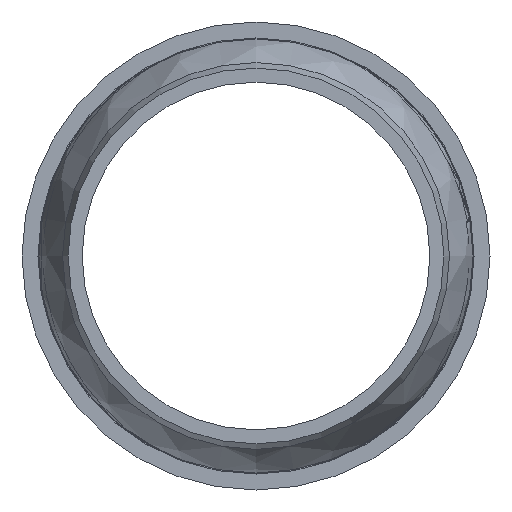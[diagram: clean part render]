
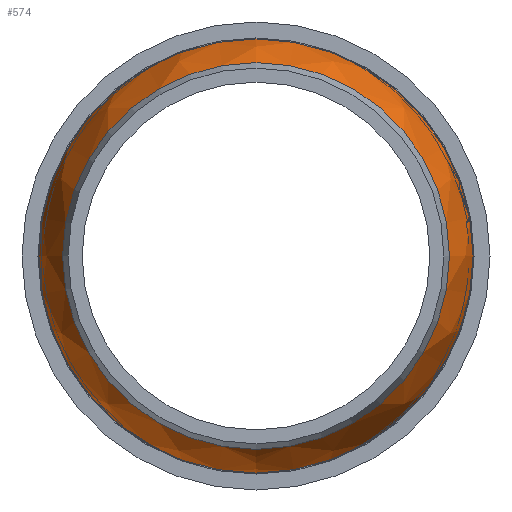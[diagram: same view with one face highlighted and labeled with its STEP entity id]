
A CAD part, left-side view. The second image highlights one B-rep face of the part: STEP entity #574.
In plain terms, the highlighted free-form (B-spline) face has degree [2, 2] with [3, 9] control points.
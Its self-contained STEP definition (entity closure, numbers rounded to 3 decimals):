
#12=(
BOUNDED_CURVE()
B_SPLINE_CURVE(2,(#2121,#2122,#2123),.UNSPECIFIED.,.F.,.F.)
B_SPLINE_CURVE_WITH_KNOTS((3,3),(0.097,0.624),
 .UNSPECIFIED.)
CURVE()
GEOMETRIC_REPRESENTATION_ITEM()
RATIONAL_B_SPLINE_CURVE((1.,0.965,1.))
REPRESENTATION_ITEM('')
);
#14=(
BOUNDED_SURFACE()
B_SPLINE_SURFACE(2,2,((#2094,#2095,#2096,#2097,#2098,#2099,#2100,#2101,
#2102),(#2103,#2104,#2105,#2106,#2107,#2108,#2109,#2110,#2111),(#2112,#2113,
#2114,#2115,#2116,#2117,#2118,#2119,#2120)),.UNSPECIFIED.,.F.,.T.,.F.)
B_SPLINE_SURFACE_WITH_KNOTS((3,3),(3,2,2,2,3),(-0.624,-0.097),
(-3.142,-1.571,0.,1.571,3.142),
 .UNSPECIFIED.)
GEOMETRIC_REPRESENTATION_ITEM()
RATIONAL_B_SPLINE_SURFACE(((1.,0.707,1.,0.707,1.,
0.707,1.,0.707,1.),(0.965,0.683,
0.965,0.683,0.965,0.683,0.965,
0.683,0.965),(1.,0.707,1.,0.707,
1.,0.707,1.,0.707,1.)))
REPRESENTATION_ITEM('')
SURFACE()
);
#147=FACE_OUTER_BOUND('',#206,.T.);
#206=EDGE_LOOP('',(#480,#481,#482,#483,#484,#485,#486));
#234=CIRCLE('',#616,42.2);
#235=CIRCLE('',#617,42.2);
#236=CIRCLE('',#618,42.2);
#242=CIRCLE('',#637,37.6);
#243=CIRCLE('',#638,37.6);
#278=VERTEX_POINT('',#1437);
#287=VERTEX_POINT('',#1829);
#288=VERTEX_POINT('',#1830);
#299=VERTEX_POINT('',#2090);
#300=VERTEX_POINT('',#2091);
#349=EDGE_CURVE('',#287,#288,#234,.T.);
#350=EDGE_CURVE('',#288,#278,#235,.T.);
#351=EDGE_CURVE('',#278,#287,#236,.T.);
#363=EDGE_CURVE('',#299,#300,#242,.T.);
#364=EDGE_CURVE('',#300,#299,#243,.T.);
#365=EDGE_CURVE('',#288,#300,#12,.T.);
#480=ORIENTED_EDGE('',*,*,#349,.F.);
#481=ORIENTED_EDGE('',*,*,#351,.F.);
#482=ORIENTED_EDGE('',*,*,#350,.F.);
#483=ORIENTED_EDGE('',*,*,#365,.T.);
#484=ORIENTED_EDGE('',*,*,#364,.T.);
#485=ORIENTED_EDGE('',*,*,#363,.T.);
#486=ORIENTED_EDGE('',*,*,#365,.F.);
#574=ADVANCED_FACE('',(#147),#14,.F.);
#616=AXIS2_PLACEMENT_3D('',#1831,#712,#713);
#617=AXIS2_PLACEMENT_3D('',#1832,#714,#715);
#618=AXIS2_PLACEMENT_3D('',#1833,#716,#717);
#637=AXIS2_PLACEMENT_3D('',#2092,#754,#755);
#638=AXIS2_PLACEMENT_3D('',#2093,#756,#757);
#712=DIRECTION('center_axis',(1.,0.,0.));
#713=DIRECTION('ref_axis',(0.,0.,
1.));
#714=DIRECTION('center_axis',(1.,0.,0.));
#715=DIRECTION('ref_axis',(0.,0.,
1.));
#716=DIRECTION('center_axis',(1.,0.,0.));
#717=DIRECTION('ref_axis',(0.,0.,
1.));
#754=DIRECTION('center_axis',(1.,0.,0.));
#755=DIRECTION('ref_axis',(0.,0.,
1.));
#756=DIRECTION('center_axis',(1.,0.,0.));
#757=DIRECTION('ref_axis',(0.,0.,
1.));
#1437=CARTESIAN_POINT('',(508.8,42.2,0.));
#1829=CARTESIAN_POINT('',(508.8,-42.2,0.));
#1830=CARTESIAN_POINT('',(508.8,0.,-42.2));
#1831=CARTESIAN_POINT('Origin',(508.8,0.,
0.));
#1832=CARTESIAN_POINT('Origin',(508.8,0.,
0.));
#1833=CARTESIAN_POINT('Origin',(508.8,0.,
0.));
#2090=CARTESIAN_POINT('',(496.6,-37.6,0.));
#2091=CARTESIAN_POINT('',(496.6,0.,-37.6));
#2092=CARTESIAN_POINT('Origin',(496.6,0.,
0.));
#2093=CARTESIAN_POINT('Origin',(496.6,0.,
0.));
#2094=CARTESIAN_POINT('Ctrl Pts',(496.6,0.,
-37.6));
#2095=CARTESIAN_POINT('Ctrl Pts',(496.6,37.6,-37.6));
#2096=CARTESIAN_POINT('Ctrl Pts',(496.6,37.6,0.));
#2097=CARTESIAN_POINT('Ctrl Pts',(496.6,37.6,37.6));
#2098=CARTESIAN_POINT('Ctrl Pts',(496.6,0.,
37.6));
#2099=CARTESIAN_POINT('Ctrl Pts',(496.6,-37.6,37.6));
#2100=CARTESIAN_POINT('Ctrl Pts',(496.6,-37.6,0.));
#2101=CARTESIAN_POINT('Ctrl Pts',(496.6,-37.6,-37.6));
#2102=CARTESIAN_POINT('Ctrl Pts',(496.6,0.,
-37.6));
#2103=CARTESIAN_POINT('Ctrl Pts',(502.079,0.,
-41.548));
#2104=CARTESIAN_POINT('Ctrl Pts',(502.079,41.548,-41.548));
#2105=CARTESIAN_POINT('Ctrl Pts',(502.079,41.548,0.));
#2106=CARTESIAN_POINT('Ctrl Pts',(502.079,41.548,41.548));
#2107=CARTESIAN_POINT('Ctrl Pts',(502.079,0.,
41.548));
#2108=CARTESIAN_POINT('Ctrl Pts',(502.079,-41.548,41.548));
#2109=CARTESIAN_POINT('Ctrl Pts',(502.079,-41.548,0.));
#2110=CARTESIAN_POINT('Ctrl Pts',(502.079,-41.548,-41.548));
#2111=CARTESIAN_POINT('Ctrl Pts',(502.079,0.,
-41.548));
#2112=CARTESIAN_POINT('Ctrl Pts',(508.8,0.,
-42.2));
#2113=CARTESIAN_POINT('Ctrl Pts',(508.8,42.2,-42.2));
#2114=CARTESIAN_POINT('Ctrl Pts',(508.8,42.2,0.));
#2115=CARTESIAN_POINT('Ctrl Pts',(508.8,42.2,42.2));
#2116=CARTESIAN_POINT('Ctrl Pts',(508.8,0.,
42.2));
#2117=CARTESIAN_POINT('Ctrl Pts',(508.8,-42.2,42.2));
#2118=CARTESIAN_POINT('Ctrl Pts',(508.8,-42.2,0.));
#2119=CARTESIAN_POINT('Ctrl Pts',(508.8,-42.2,-42.2));
#2120=CARTESIAN_POINT('Ctrl Pts',(508.8,0.,
-42.2));
#2121=CARTESIAN_POINT('Ctrl Pts',(508.8,0.,
-42.2));
#2122=CARTESIAN_POINT('Ctrl Pts',(502.079,0.,
-41.548));
#2123=CARTESIAN_POINT('Ctrl Pts',(496.6,0.,
-37.6));
